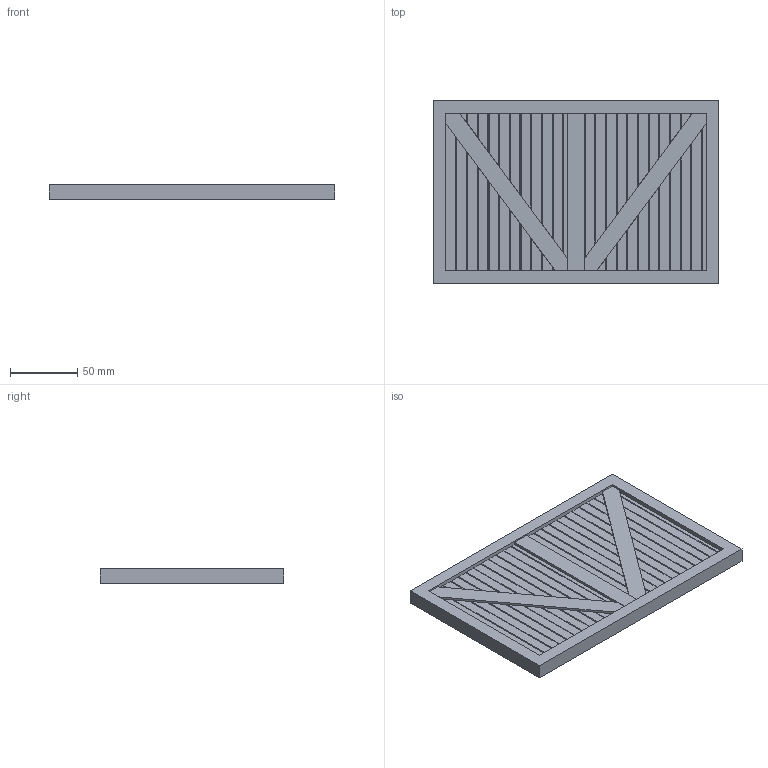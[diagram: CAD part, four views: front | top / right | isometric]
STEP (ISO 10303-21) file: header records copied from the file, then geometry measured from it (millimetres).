
FILE_DESCRIPTION (( 'STEP AP203' ), '1' );
FILE_NAME ('1x6 poplar lid.STEP', '2018-03-02T19:29:12', ( '' ), ( '' ), 'SwSTEP 2.0', 'SolidWorks 2015', '' );
FILE_SCHEMA (( 'CONFIG_CONTROL_DESIGN' ));
Length unit declared in the file: inch
Products named in the file (1): 1x6 poplar lid
Bounding box: 212.72 x 136.53 x 11.11 mm (x, y, z)
Volume: 259124.7 mm3; surface area: 70821.9 mm2
Topology: 1 solids, 1 shells, 144 faces, 423 edges, 282 vertices
Faces by surface type: plane 144
Entity records: 4766 total; most frequent: CARTESIAN_POINT 850, ORIENTED_EDGE 846, DIRECTION 713, VECTOR 423, LINE 423, EDGE_CURVE 423, VERTEX_POINT 282, EDGE_LOOP 145
